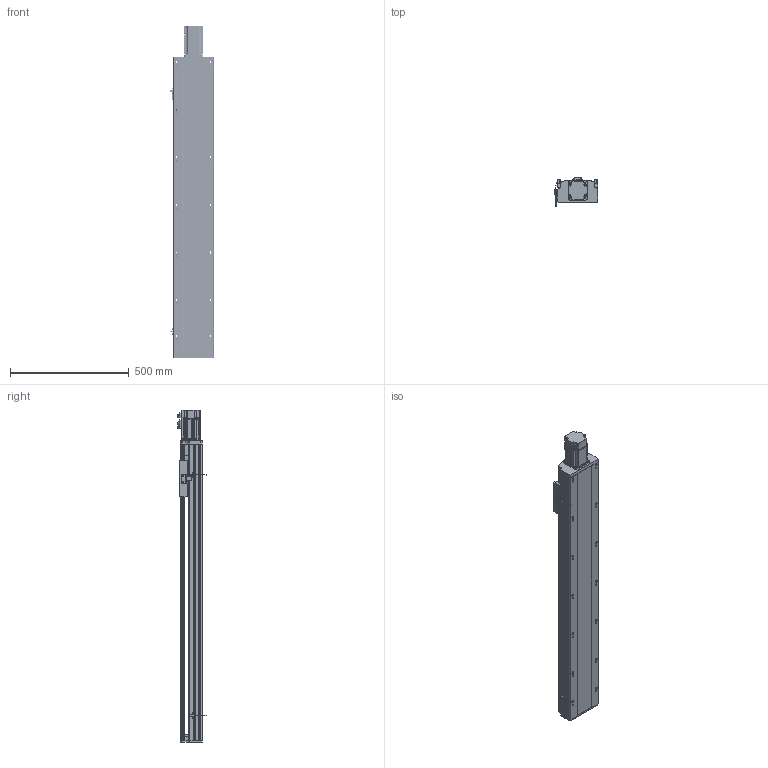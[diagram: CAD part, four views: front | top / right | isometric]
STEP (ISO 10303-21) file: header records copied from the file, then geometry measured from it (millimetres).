
FILE_DESCRIPTION (( 'STEP AP214' ), '1' );
FILE_NAME ('CTH170-1000.STEP', '2019-11-25T09:02:35', ( '微软用户' ), ( '微软中国' ), 'SwSTEP 2.0', 'SolidWorks 2017', '' );
FILE_SCHEMA (( 'AUTOMOTIVE_DESIGN' ));
Length unit declared in the file: millimetre
Products named in the file (32): 支撑座^丝杠支撑座_CTH170-L10-200; B6002Z; _C-BSST2005_n; SFS2005-411-SZC; SFH2010佪裝; M3-L8囀鞠褒蹟佪; 80EMA-016A; EE-SX672峚倰換覜ん; 170萇儂啣; CT17耀郪-覜茼んえ; 170傷啣; M6-L20囀鞠褒蹟佪; EGH20CA; 蚾饜极3^CTH170-L10-200; M5-L20囀鞠褒蹟佪-BR L; M4-L10囀鞠褒蹟佪-BR L; M5-L10囀鞠褒蹟佪; 坶踡蹟簽M15x1; EGH20CA_BLOCK; 潔路遠COL15-A; EG20_RAIL; MISUMI_B7002-DB_盄俶絳砃粣; 170賑怢; BEARING_MISUMI_B7002-DB_盄俶絳砃粣; 170裔啣^CTH170-L10-200; 錨璃8^蚾饜极3_CTH170-L10-200; 錨璃2; 复件 轴承座^装配体3_CTH170-L10-200; 佪話盓傅釱^CTH170-L10-200; CTH170-1000; M5-L16囀鞠褒蹟佪; 遣喳蝶15x12x8-BR L
Assembly tree (79 placements, depth 4):
  CTH170-1000
    錨璃2
    170裔啣^CTH170-L10-200
    170賑怢
    EGH20CA  x2
      EG20_RAIL
      EGH20CA_BLOCK
      M5-L10囀鞠褒蹟佪
      M5-L20囀鞠褒蹟佪-BR L
    170傷啣
    170萇儂啣
    80EMA-016A
    SFS2005-411-SZC
      SFH2010佪裝
    _C-BSST2005_n
    佪話盓傅釱^CTH170-L10-200
      B6002Z
      支撑座^丝杠支撑座_CTH170-L10-200
      遣喳蝶15x12x8-BR L  x2
      M5-L16囀鞠褒蹟佪  x2
    蚾饜极3^CTH170-L10-200
      复件 轴承座^装配体3_CTH170-L10-200
      錨璃8^蚾饜极3_CTH170-L10-200
      MISUMI_B7002-DB_盄俶絳砃粣
        BEARING_MISUMI_B7002-DB_盄俶絳砃粣  x2
      潔路遠COL15-A  x2
      坶踡蹟簽M15x1
      M5-L16囀鞠褒蹟佪  x6
      M4-L10囀鞠褒蹟佪-BR L  x4
    遣喳蝶15x12x8-BR L  x2
    M6-L20囀鞠褒蹟佪  x4
    M4-L10囀鞠褒蹟佪-BR L  x10
    M5-L16囀鞠褒蹟佪  x4
    CT17耀郪-覜茼んえ
    EE-SX672峚倰換覜ん  x2
    M3-L8囀鞠褒蹟佪  x4
Bounding box: 183.7 x 117.95 x 1396 mm (x, y, z)
Volume: 7841818 mm3; surface area: 2448053.7 mm2
Topology: 91 solids, 92 shells, 5785 faces, 15231 edges, 9702 vertices
Faces by surface type: plane 3142, cylinder 1604, cone 657, bspline 342, torus 40
Entity records: 105000 total; most frequent: CARTESIAN_POINT 22267, ORIENTED_EDGE 15104, DIRECTION 14767, EDGE_CURVE 7552, AXIS2_PLACEMENT_3D 5184, VERTEX_POINT 4910, LINE 4399, VECTOR 4399
